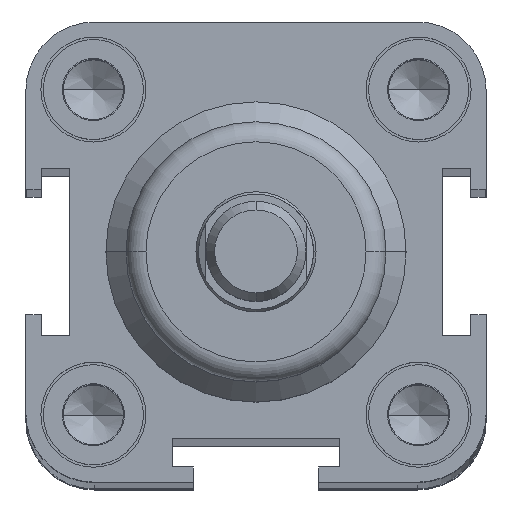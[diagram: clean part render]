
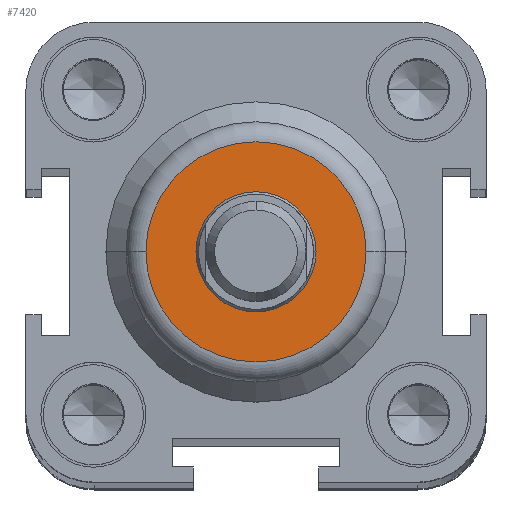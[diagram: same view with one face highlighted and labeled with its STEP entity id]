
A CAD part, top view. The second image highlights one B-rep face of the part: STEP entity #7420.
In plain terms, the highlighted planar face has unit normal (0, 0, 1).
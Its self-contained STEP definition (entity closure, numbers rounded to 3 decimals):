
#1472=CARTESIAN_POINT('',(-11.,0.0,238.0));
#1473=VERTEX_POINT('',#1472);
#1481=CARTESIAN_POINT('',(11.,0.,238.0));
#1482=VERTEX_POINT('',#1481);
#1483=CARTESIAN_POINT('',(0.0,0.0,238.0));
#1484=DIRECTION('',(0.0,0.0,-1.0));
#1485=DIRECTION('',(-1.0,0.0,0.0));
#1486=AXIS2_PLACEMENT_3D('',#1483,#1484,#1485);
#1487=CIRCLE('',#1486,11.);
#1488=EDGE_CURVE('',#1473,#1482,#1487,.T.);
#1593=CARTESIAN_POINT('',(6.,0.0,238.0));
#1594=VERTEX_POINT('',#1593);
#1610=CARTESIAN_POINT('',(-6.,0.,238.0));
#1611=VERTEX_POINT('',#1610);
#1618=CARTESIAN_POINT('',(0.0,0.0,238.0));
#1619=DIRECTION('',(0.0,0.0,-1.0));
#1620=DIRECTION('',(1.0,0.0,0.0));
#1621=AXIS2_PLACEMENT_3D('',#1618,#1619,#1620);
#1622=CIRCLE('',#1621,6.);
#1623=EDGE_CURVE('',#1594,#1611,#1622,.T.);
#7347=CARTESIAN_POINT('',(0.0,0.0,238.0));
#7348=DIRECTION('',(0.0,0.0,-1.0));
#7349=DIRECTION('',(1.0,0.0,0.0));
#7350=AXIS2_PLACEMENT_3D('',#7347,#7348,#7349);
#7351=CIRCLE('',#7350,6.);
#7352=EDGE_CURVE('',#1611,#1594,#7351,.T.);
#7401=CARTESIAN_POINT('',(-5.5,0.0,238.0));
#7402=DIRECTION('',(0.0,0.0,1.0));
#7403=DIRECTION('',(1.0,0.0,0.0));
#7404=AXIS2_PLACEMENT_3D('',#7401,#7402,#7403);
#7405=PLANE('',#7404);
#7406=ORIENTED_EDGE('',*,*,#1488,.F.);
#7407=CARTESIAN_POINT('',(0.0,0.0,238.0));
#7408=DIRECTION('',(0.0,0.0,-1.0));
#7409=DIRECTION('',(-1.0,0.0,0.0));
#7410=AXIS2_PLACEMENT_3D('',#7407,#7408,#7409);
#7411=CIRCLE('',#7410,11.);
#7412=EDGE_CURVE('',#1482,#1473,#7411,.T.);
#7413=ORIENTED_EDGE('',*,*,#7412,.F.);
#7414=EDGE_LOOP('',(#7406,#7413));
#7415=FACE_OUTER_BOUND('',#7414,.T.);
#7416=ORIENTED_EDGE('',*,*,#1623,.T.);
#7417=ORIENTED_EDGE('',*,*,#7352,.T.);
#7418=EDGE_LOOP('',(#7416,#7417));
#7419=FACE_BOUND('',#7418,.T.);
#7420=ADVANCED_FACE('',(#7415,#7419),#7405,.T.);
